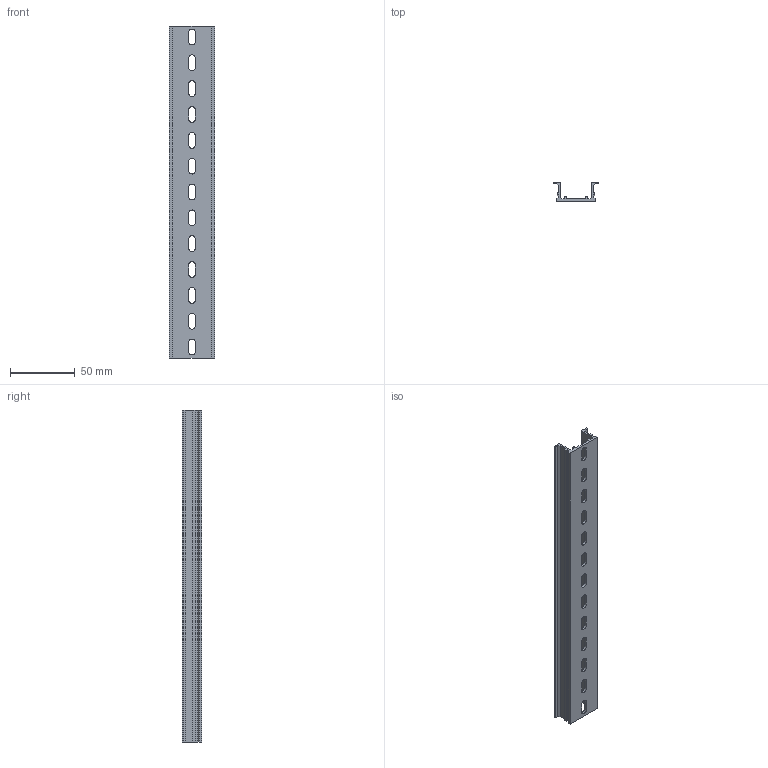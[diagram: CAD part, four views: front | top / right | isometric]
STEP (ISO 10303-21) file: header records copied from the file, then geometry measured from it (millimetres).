
FILE_DESCRIPTION(/* description */ (''),/* implementation_level */ '2;1');
FILE_NAME(/* name */ '22649-(TKB KD-13)HP 3D.stp',/* time_stamp */ '2024-12-05T13:40:16+09:00',/* author */ ('usercadg104'),/* organization */ (''),/* preprocessor_version */ 'ST-DEVELOPER v19.2',/* originating_system */ 'Autodesk Inventor 2023',/* authorisation */ '');
FILE_SCHEMA (('CONFIG_CONTROL_DESIGN'));
Length unit declared in the file: millimetre
Products named in the file (1): TKB KD-3(林)
Bounding box: 35 x 15 x 257 mm (x, y, z)
Volume: 30057 mm3; surface area: 34881.1 mm2
Topology: 1 solids, 1 shells, 92 faces, 270 edges, 180 vertices
Faces by surface type: plane 62, cylinder 30
Entity records: 3149 total; most frequent: CARTESIAN_POINT 543, ORIENTED_EDGE 540, DIRECTION 516, EDGE_CURVE 270, LINE 210, VECTOR 210, VERTEX_POINT 180, AXIS2_PLACEMENT_3D 153
